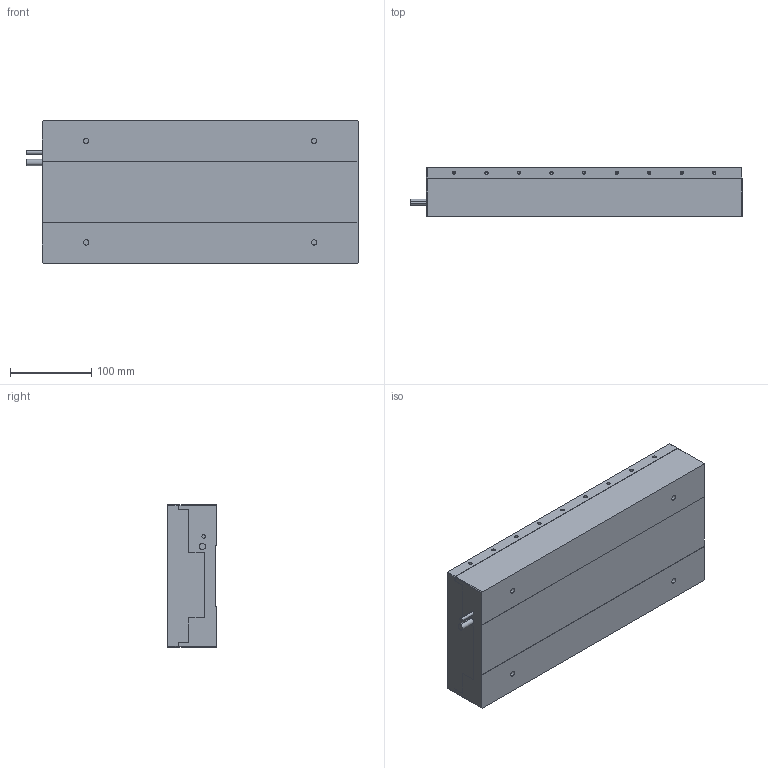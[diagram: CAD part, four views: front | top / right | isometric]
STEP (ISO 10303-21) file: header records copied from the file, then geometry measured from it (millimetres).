
FILE_DESCRIPTION (( 'STEP AP203' ), '1' );
FILE_NAME ('NPS-L-CB8-10x.STEP', '2019-09-11T06:19:59', ( '' ), ( '' ), 'SwSTEP 2.0', 'SolidWorks 2015', '' );
FILE_SCHEMA (( 'CONFIG_CONTROL_DESIGN' ));
Length unit declared in the file: millimetre
Products named in the file (3): NPS-L-CB8-10x_固定部; NPS-L-CB8-10x_移動部; NPS-L-CB8-10x
Assembly tree (2 placements, depth 2):
  NPS-L-CB8-10x
    NPS-L-CB8-10x_固定部
    NPS-L-CB8-10x_移動部
Bounding box: 408 x 60 x 175 mm (x, y, z)
Volume: 4024209.5 mm3; surface area: 398093.4 mm2
Topology: 2 solids, 2 shells, 272 faces, 620 edges, 380 vertices
Faces by surface type: cylinder 144, plane 88, cone 40
Entity records: 7753 total; most frequent: DIRECTION 1422, CARTESIAN_POINT 1237, ORIENTED_EDGE 1160, EDGE_CURVE 580, AXIS2_PLACEMENT_3D 565, VERTEX_POINT 380, EDGE_LOOP 348, VECTOR 292
